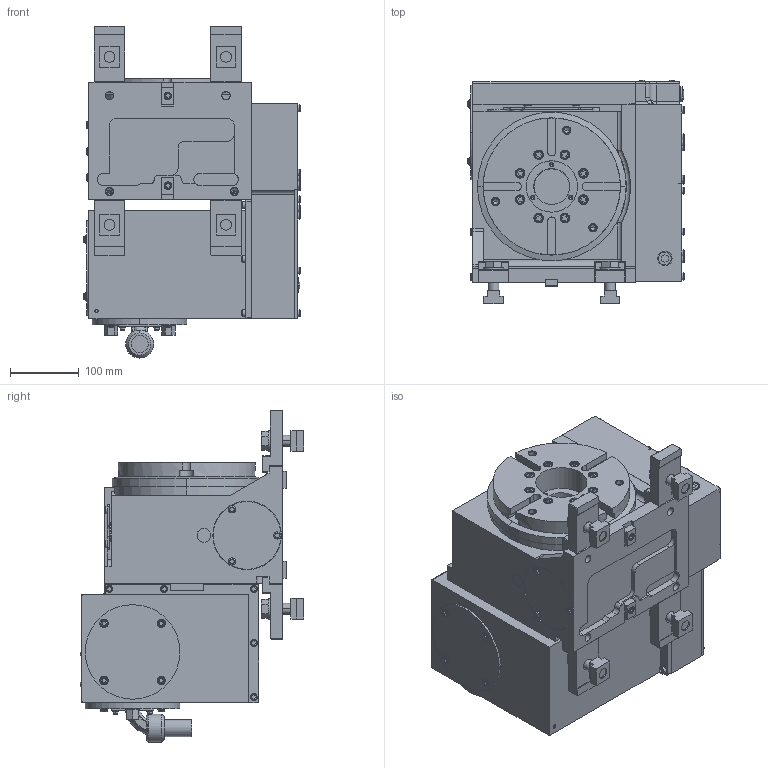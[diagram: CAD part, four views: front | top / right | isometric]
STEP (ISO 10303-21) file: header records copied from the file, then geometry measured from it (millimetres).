
FILE_DESCRIPTION (( 'STEP AP214' ), '1' );
FILE_NAME ('TBX200BV.STEP', '2019-12-10T07:05:01', ( '' ), ( '' ), 'SwSTEP 2.0', 'SolidWorks 2017', '' );
FILE_SCHEMA (( 'AUTOMOTIVE_DESIGN' ));
Length unit declared in the file: millimetre
Products named in the file (13): キタガワシール; SMC KQ2E06-02; 僇僶乕丂俹(61E4458433)MR250RAM01; モータケース(61E2744340)TBX200BF03; TBX200B01僋儈僞僥(61E112169); ギヤーボックス(61E1130612)TBX200B01; テーブル(61E3647021)TM201H00; 儂儞僞僀ASSY(61E1121684)TBX200B01; TBX200BV; CLAMPING PARTS(61E445870)結合; TBX200BVホンタイ; 働乕僽儖N29ZSZ2562; コネクタプレート(61E4463882)
Assembly tree (16 placements, depth 4):
  TBX200BV
    TBX200BVホンタイ
      TBX200B01僋儈僞僥(61E112169)
        儂儞僞僀ASSY(61E1121684)TBX200B01
        テーブル(61E3647021)TM201H00
        ギヤーボックス(61E1130612)TBX200B01
      モータケース(61E2744340)TBX200BF03
      僇僶乕丂俹(61E4458433)MR250RAM01
      SMC KQ2E06-02  x2
      キタガワシール
      コネクタプレート(61E4463882)
      働乕僽儖N29ZSZ2562
    CLAMPING PARTS(61E445870)結合  x4
Bounding box: 316.1 x 326.75 x 484.4 mm (x, y, z)
Volume: 23837412.4 mm3; surface area: 1171321.5 mm2
Topology: 14 solids, 14 shells, 2896 faces, 7596 edges, 4967 vertices
Faces by surface type: plane 2130, cylinder 565, cone 97, torus 90, bspline 9, sphere 5
Entity records: 92925 total; most frequent: CARTESIAN_POINT 15427, ORIENTED_EDGE 14258, DIRECTION 13850, EDGE_CURVE 7129, LINE 5786, VECTOR 5786, VERTEX_POINT 4689, AXIS2_PLACEMENT_3D 4032
